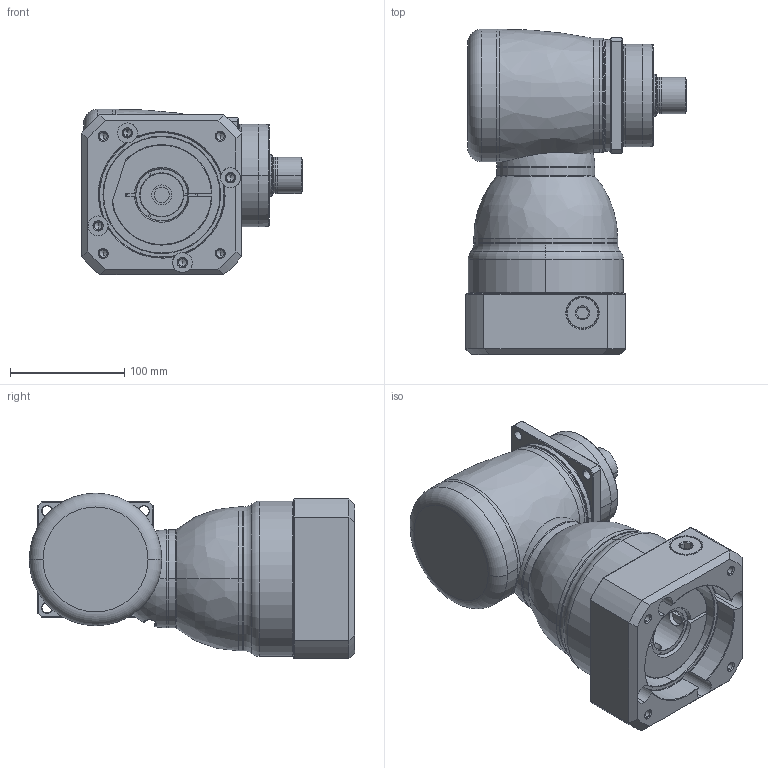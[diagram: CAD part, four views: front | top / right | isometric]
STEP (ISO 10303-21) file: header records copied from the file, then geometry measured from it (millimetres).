
FILE_DESCRIPTION((''),'2;1');
FILE_NAME('KF100_S3_1ST_38-P0409900101_ASM','2016-07-04T',('d01943'),(''),'PRO/ENGINEER BY PARAMETRIC TECHNOLOGY CORPORATION, 2008410','PRO/ENGINEER BY PARAMETRIC TECHNOLOGY CORPORATION, 2008410','');
FILE_SCHEMA(('CONFIG_CONTROL_DESIGN'));
Length unit declared in the file: millimetre
Products named in the file (11): P1008400002; P1804400001; P0915402001; P1315400001; P1007400001; P1318400501; P0409900101; P0503900012; P0912405001; 21711422019; KF100_S3_1ST_38-P0409900101_ASM
Assembly tree (10 placements, depth 2):
  KF100_S3_1ST_38-P0409900101_ASM
    P1008400002
    P1804400001
    P0915402001
    P1315400001
    P1007400001
    P1318400501
    P0409900101
    P0503900012
    P0912405001
    21711422019
Bounding box: 193 x 285 x 145 mm (x, y, z)
Volume: 3170371.7 mm3; surface area: 384489.4 mm2
Topology: 11 solids, 11 shells, 500 faces, 1137 edges, 676 vertices
Faces by surface type: cylinder 168, cone 130, plane 102, torus 64, bspline 34, sphere 2
Entity records: 19982 total; most frequent: CARTESIAN_POINT 8589, DIRECTION 2486, ORIENTED_EDGE 2234, EDGE_CURVE 1117, AXIS2_PLACEMENT_3D 1055, VERTEX_POINT 676, EDGE_LOOP 569, CIRCLE 568
